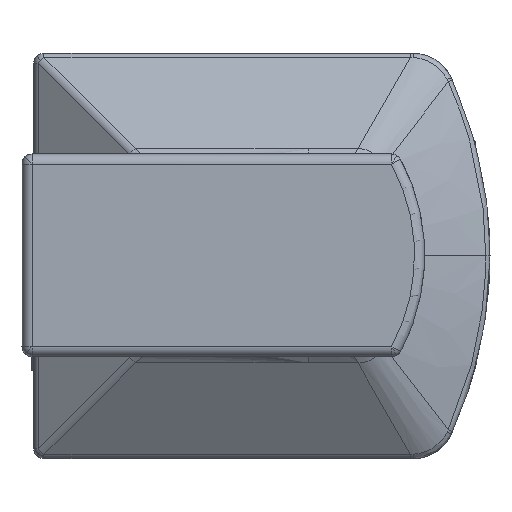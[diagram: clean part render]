
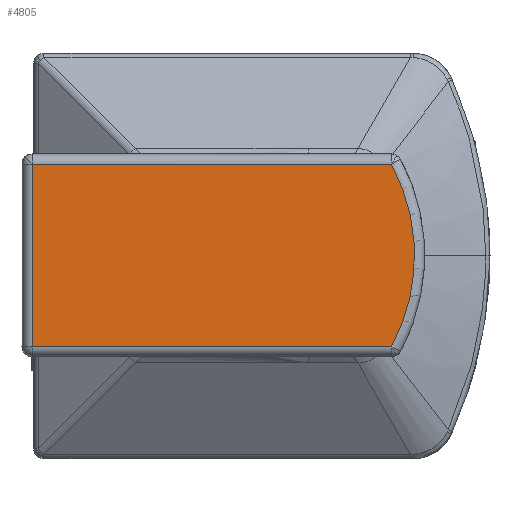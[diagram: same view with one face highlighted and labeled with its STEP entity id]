
A CAD part, top view. The second image highlights one B-rep face of the part: STEP entity #4805.
In plain terms, the highlighted planar face has unit normal (0, 0, 1).
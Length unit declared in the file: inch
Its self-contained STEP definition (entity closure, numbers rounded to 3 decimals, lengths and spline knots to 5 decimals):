
#1635 = CARTESIAN_POINT ( 'NONE',  ( 0.72225, -0.4252, 1.99409 ) ) ;
#2509 = DIRECTION ( 'NONE',  ( 1., 0., 0. ) ) ;
#2643 = DIRECTION ( 'NONE',  ( 0., 0., 1. ) ) ;
#3842 = EDGE_CURVE ( 'NONE', #15573, #26254, #23686, .T. ) ;
#4065 = ORIENTED_EDGE ( 'NONE', *, *, #3842, .F. ) ;
#4560 = CARTESIAN_POINT ( 'NONE',  ( -0.39442, -0.4252, 1.99409 ) ) ;
#4739 = PLANE ( 'NONE',  #14826 ) ;
#4805 = ADVANCED_FACE ( 'NONE', ( #9204 ), #4739, .T. ) ;
#5179 = B_SPLINE_CURVE_WITH_KNOTS ( 'NONE', 3,
 ( #13164, #5196, #19736, #15660 ),
 .UNSPECIFIED., .F., .F.,
 ( 4, 4 ),
 ( 0., 1. ),
 .UNSPECIFIED. ) ;
#5196 = CARTESIAN_POINT ( 'NONE',  ( -0.95276, 0.14173, 1.99409 ) ) ;
#5204 = EDGE_CURVE ( 'NONE', #6093, #26254, #21807, .T. ) ;
#6093 = VERTEX_POINT ( 'NONE', #12775 ) ;
#6458 = CARTESIAN_POINT ( 'NONE',  ( -0.95276, 0.4252, 1.99409 ) ) ;
#6875 = CARTESIAN_POINT ( 'NONE',  ( 0.72225, 0.4252, 1.99409 ) ) ;
#7517 = CARTESIAN_POINT ( 'NONE',  ( 0.82019, 0.14765, 1.99409 ) ) ;
#9204 = FACE_OUTER_BOUND ( 'NONE', #11845, .T. ) ;
#9840 = CARTESIAN_POINT ( 'NONE',  ( 0.72225, -0.4252, 1.99409 ) ) ;
#10933 = CARTESIAN_POINT ( 'NONE',  ( 0.16392, 0.4252, 1.99409 ) ) ;
#11845 = EDGE_LOOP ( 'NONE', ( #23456, #19685, #4065, #19166 ) ) ;
#12113 = CARTESIAN_POINT ( 'NONE',  ( 0.82019, -0.14765, 1.99409 ) ) ;
#12775 = CARTESIAN_POINT ( 'NONE',  ( -0.95276, -0.4252, 1.99409 ) ) ;
#13126 = CARTESIAN_POINT ( 'NONE',  ( -0.0617, 0., 1.99409 ) ) ;
#13164 = CARTESIAN_POINT ( 'NONE',  ( -0.95276, 0.4252, 1.99409 ) ) ;
#13406 = VERTEX_POINT ( 'NONE', #24745 ) ;
#13804 = CARTESIAN_POINT ( 'NONE',  ( 0.72225, 0.4252, 1.99409 ) ) ;
#14826 = AXIS2_PLACEMENT_3D ( 'NONE', #13126, #2643, #2509 ) ;
#15573 = VERTEX_POINT ( 'NONE', #6875 ) ;
#15660 = CARTESIAN_POINT ( 'NONE',  ( -0.95276, -0.4252, 1.99409 ) ) ;
#15762 = CARTESIAN_POINT ( 'NONE',  ( 0.72225, -0.4252, 1.99409 ) ) ;
#16033 = CARTESIAN_POINT ( 'NONE',  ( 0.82935, -0.07383, 1.99409 ) ) ;
#17365 = CARTESIAN_POINT ( 'NONE',  ( 0.72225, 0.4252, 1.99409 ) ) ;
#18402 = CARTESIAN_POINT ( 'NONE',  ( 0.78413, 0.29083, 1.99409 ) ) ;
#19166 = ORIENTED_EDGE ( 'NONE', *, *, #22758, .F. ) ;
#19685 = ORIENTED_EDGE ( 'NONE', *, *, #5204, .T. ) ;
#19736 = CARTESIAN_POINT ( 'NONE',  ( -0.95276, -0.14173, 1.99409 ) ) ;
#20106 = CARTESIAN_POINT ( 'NONE',  ( 0.75722, 0.36018, 1.99409 ) ) ;
#20251 = CARTESIAN_POINT ( 'NONE',  ( 0.75722, -0.36018, 1.99409 ) ) ;
#21807 = B_SPLINE_CURVE_WITH_KNOTS ( 'NONE', 3,
 ( #23708, #4560, #26912, #9840 ),
 .UNSPECIFIED., .F., .F.,
 ( 4, 4 ),
 ( 0., 1. ),
 .UNSPECIFIED. ) ;
#22758 = EDGE_CURVE ( 'NONE', #13406, #15573, #24656, .T. ) ;
#23456 = ORIENTED_EDGE ( 'NONE', *, *, #26909, .T. ) ;
#23515 = CARTESIAN_POINT ( 'NONE',  ( -0.39442, 0.4252, 1.99409 ) ) ;
#23686 = B_SPLINE_CURVE_WITH_KNOTS ( 'NONE', 3,
 ( #13804, #20106, #18402, #7517, #24299, #16033, #12113, #26669, #20251, #15762 ),
 .UNSPECIFIED., .F., .F.,
 ( 4, 2, 2, 2, 4 ),
 ( 0., 0.25, 0.5, 0.75, 1. ),
 .UNSPECIFIED. ) ;
#23708 = CARTESIAN_POINT ( 'NONE',  ( -0.95276, -0.4252, 1.99409 ) ) ;
#24299 = CARTESIAN_POINT ( 'NONE',  ( 0.82935, 0.07383, 1.99409 ) ) ;
#24656 = B_SPLINE_CURVE_WITH_KNOTS ( 'NONE', 3,
 ( #6458, #23515, #10933, #17365 ),
 .UNSPECIFIED., .F., .F.,
 ( 4, 4 ),
 ( 0., 1. ),
 .UNSPECIFIED. ) ;
#24745 = CARTESIAN_POINT ( 'NONE',  ( -0.95276, 0.4252, 1.99409 ) ) ;
#26254 = VERTEX_POINT ( 'NONE', #1635 ) ;
#26669 = CARTESIAN_POINT ( 'NONE',  ( 0.78413, -0.29083, 1.99409 ) ) ;
#26909 = EDGE_CURVE ( 'NONE', #13406, #6093, #5179, .T. ) ;
#26912 = CARTESIAN_POINT ( 'NONE',  ( 0.16392, -0.4252, 1.99409 ) ) ;
